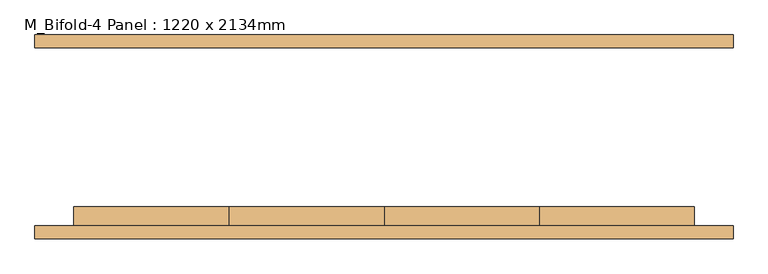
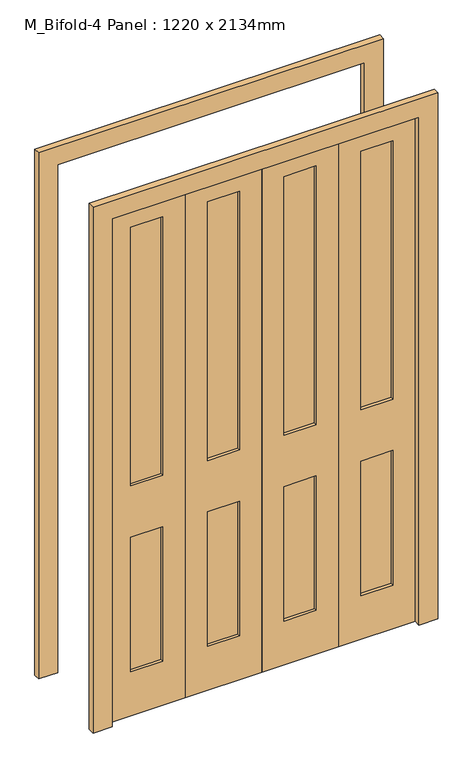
"""IFC4 building model written with IfcOpenShell, lengths in millimetres: door geometry, M_Bifold-4 Panel : 1220 x 2134mm."""

from ifc_helpers import new_model, si_unit, frame, origin, place, context, project, spatial, polyline, outline, extrude, source, transform, mapped, element, save


def m_bifold_4_panel_1220_x_2134mm_cde6dea2(model_context):
    return source(origin(), model_context, "Body", "SweptSolid", [
        extrude(outline(polyline([(393.9, -162.3), (393.9, -149.6), (521.1, -149.6), (521.1, -162.3), (393.9, -162.3)])), frame((0.0, 0.0, 965.2), z_axis=(0.0, 0.0, 1.0), x_axis=(1.0, 0.0, 0.0)), (0.0, 0.0, 1.0), 1086.25),
        extrude(outline(polyline([(393.9, -162.3), (393.9, -149.6), (521.1, -149.6), (521.1, -162.3), (393.9, -162.3)])), frame((0.0, 0.0, 184.15), z_axis=(0.0, 0.0, 1.0), x_axis=(1.0, 0.0, 0.0)), (0.0, 0.0, 1.0), 565.15),
        extrude(outline(polyline([(88.9, -162.3), (88.9, -149.6), (216.1, -149.6), (216.1, -162.3), (88.9, -162.3)])), frame((0.0, 0.0, 965.2), z_axis=(0.0, 0.0, 1.0), x_axis=(1.0, 0.0, 0.0)), (0.0, 0.0, 1.0), 1086.25),
        extrude(outline(polyline([(88.9, -162.3), (88.9, -149.6), (216.1, -149.6), (216.1, -162.3), (88.9, -162.3)])), frame((0.0, 0.0, 184.15), z_axis=(0.0, 0.0, 1.0), x_axis=(1.0, 0.0, 0.0)), (0.0, 0.0, 1.0), 565.15),
        extrude(outline(polyline([(-216.1, -162.3), (-216.1, -149.6), (-88.9, -149.6), (-88.9, -162.3), (-216.1, -162.3)])), frame((0.0, 0.0, 184.15), z_axis=(0.0, 0.0, 1.0), x_axis=(1.0, 0.0, 0.0)), (0.0, 0.0, 1.0), 565.15),
        extrude(outline(polyline([(-216.1, -162.3), (-216.1, -149.6), (-88.9, -149.6), (-88.9, -162.3), (-216.1, -162.3)])), frame((0.0, 0.0, 965.2), z_axis=(0.0, 0.0, 1.0), x_axis=(1.0, 0.0, 0.0)), (0.0, 0.0, 1.0), 1086.25),
        extrude(outline(polyline([(-521.1, -162.3), (-521.1, -149.6), (-393.9, -149.6), (-393.9, -162.3), (-521.1, -162.3)])), frame((0.0, 0.0, 965.2), z_axis=(0.0, 0.0, 1.0), x_axis=(1.0, 0.0, 0.0)), (0.0, 0.0, 1.0), 1086.25),
        extrude(outline(polyline([(-521.1, -162.3), (-521.1, -149.6), (-393.9, -149.6), (-393.9, -162.3), (-521.1, -162.3)])), frame((0.0, 0.0, 184.15), z_axis=(0.0, 0.0, 1.0), x_axis=(1.0, 0.0, 0.0)), (0.0, 0.0, 1.0), 565.15),
        extrude(outline(polyline([(0.0, 686.0), (2210.0, 686.0), (2210.0, -686.0), (0.0, -686.0), (0.0, -610.0), (2134.0, -610.0), (2134.0, 610.0), (0.0, 610.0), (0.0, 686.0)])), frame((0.0, 175.0, 0.0), z_axis=(0.0, 1.0, 0.0), x_axis=(0.0, 0.0, 1.0)), (0.0, 0.0, 1.0), 25.4),
        extrude(outline(polyline([(0.0, 686.0), (2210.0, 686.0), (2210.0, -686.0), (0.0, -686.0), (0.0, -610.0), (2134.0, -610.0), (2134.0, 610.0), (0.0, 610.0), (0.0, 686.0)])), frame((0.0, -200.4, 0.0), z_axis=(0.0, 1.0, 0.0), x_axis=(0.0, 0.0, 1.0)), (0.0, 0.0, 1.0), 25.4),
        extrude(outline(polyline([(0.0, -610.0), (0.0, -305.0), (2134.0, -305.0), (2134.0, -610.0), (0.0, -610.0)]), holes=[polyline([(2051.45, -521.1), (2051.45, -393.9), (965.2, -393.9), (965.2, -521.1), (2051.45, -521.1)]), polyline([(749.3, -521.1), (749.3, -393.9), (184.15, -393.9), (184.15, -521.1), (749.3, -521.1)])]), frame((0.0, -175.0, 0.0), z_axis=(0.0, 1.0, 0.0), x_axis=(0.0, 0.0, 1.0)), (0.0, 0.0, 1.0), 38.1),
        extrude(outline(polyline([(0.0, -305.0), (0.0, 0.0), (2134.0, 0.0), (2134.0, -305.0), (0.0, -305.0)]), holes=[polyline([(2051.45, -216.1), (2051.45, -88.9), (965.2, -88.9), (965.2, -216.1), (2051.45, -216.1)]), polyline([(749.3, -216.1), (749.3, -88.9), (184.15, -88.9), (184.15, -216.1), (749.3, -216.1)])]), frame((0.0, -175.0, 0.0), z_axis=(0.0, 1.0, 0.0), x_axis=(0.0, 0.0, 1.0)), (0.0, 0.0, 1.0), 38.1),
        extrude(outline(polyline([(0.0, 0.0), (0.0, 305.0), (2134.0, 305.0), (2134.0, 0.0), (0.0, 0.0)]), holes=[polyline([(2051.45, 88.9), (2051.45, 216.1), (965.2, 216.1), (965.2, 88.9), (2051.45, 88.9)]), polyline([(749.3, 88.9), (749.3, 216.1), (184.15, 216.1), (184.15, 88.9), (749.3, 88.9)])]), frame((0.0, -175.0, 0.0), z_axis=(0.0, 1.0, 0.0), x_axis=(0.0, 0.0, 1.0)), (0.0, 0.0, 1.0), 38.1),
        extrude(outline(polyline([(0.0, 305.0), (0.0, 610.0), (2134.0, 610.0), (2134.0, 305.0), (0.0, 305.0)]), holes=[polyline([(2051.45, 393.9), (2051.45, 521.1), (965.2, 521.1), (965.2, 393.9), (2051.45, 393.9)]), polyline([(749.3, 393.9), (749.3, 521.1), (184.15, 521.1), (184.15, 393.9), (749.3, 393.9)])]), frame((0.0, -175.0, 0.0), z_axis=(0.0, 1.0, 0.0), x_axis=(0.0, 0.0, 1.0)), (0.0, 0.0, 1.0), 38.1),
    ])


if __name__ == "__main__":
    model = new_model("IFC4")
    model_context = context("Model", 3, world=origin())
    ifc_project = project(units=[si_unit("LENGTHUNIT", "METRE", prefix="MILLI")], contexts=[model_context])
    site = spatial("IfcSite", under=ifc_project)
    building = spatial("IfcBuilding", under=site)
    placement = place(None, origin())
    m_bifold_4_panel_1220_x_2134mm_shape = m_bifold_4_panel_1220_x_2134mm_cde6dea2(model_context)
    element("IfcDoor", 1, ObjectType="M_Bifold-4 Panel : 1220 x 2134mm", at=placement, inside=building, context=model_context, shape_type="MappedRepresentation", body=[
        mapped(m_bifold_4_panel_1220_x_2134mm_shape, transform((0.0, 0.0, 0.0), x_axis=(1.0, 0.0, 0.0), y_axis=(0.0, 1.0, 0.0), z_axis=(0.0, 0.0, 1.0))),
    ])
    save(model, "model.ifc")
